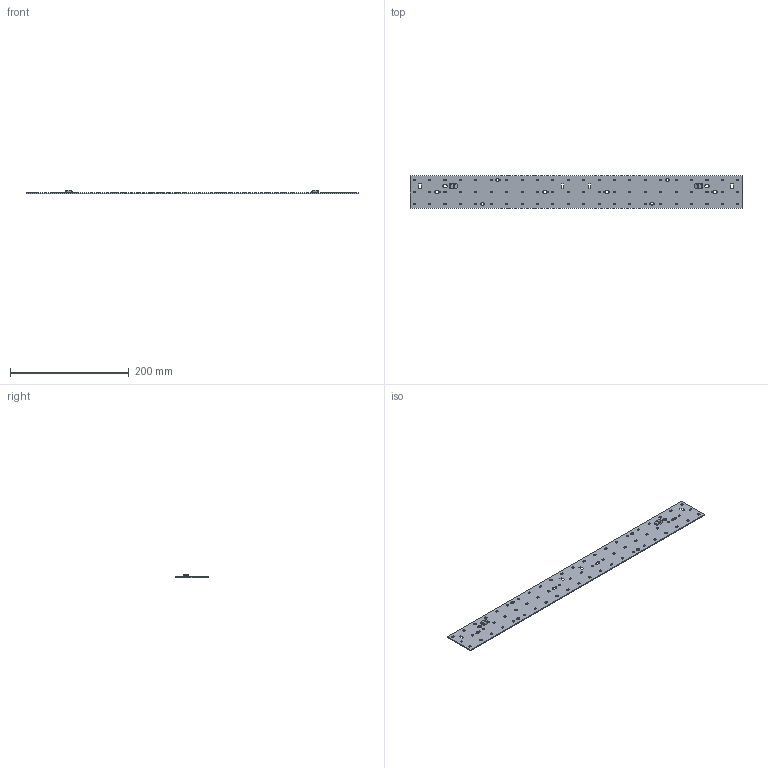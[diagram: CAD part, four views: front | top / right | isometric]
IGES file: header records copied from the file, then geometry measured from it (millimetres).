
Start section: SolidWorks IGES file using analytic representation for surfaces
Global section: file name: D:\ECTR_TEMP\OLQ-batchEngine\queue\temp\4206250swm000.igs; native system: SolidWorks 2017; preprocessor: SolidWorks 2017; author: SYSTEM; date: 200403.105447; units: millimetre
Bounding box: 560 x 55 x 5.55 mm (x, y, z)
Surface area: 65708.4 mm2 (no closed solid volume)
Topology: 0 solids, 0 shells, 4478 faces, 31620 edges, 31604 vertices
Faces by surface type: bspline 2972, revolution 1506
